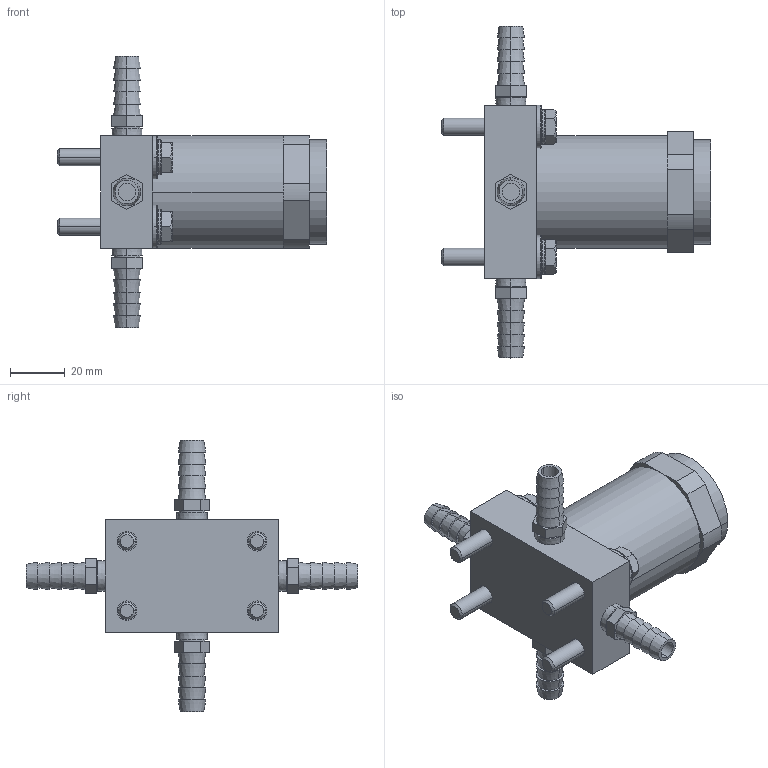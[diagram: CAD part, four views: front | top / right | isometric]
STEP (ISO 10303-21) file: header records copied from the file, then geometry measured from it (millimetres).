
FILE_DESCRIPTION((''),'2;1');
FILE_NAME('ULR4_ASM','2017-08-24T',('jennifer.elliott'),('CenterLine (Windsor) Ltd - Automation Components Division'),'PRO/ENGINEER BY PARAMETRIC TECHNOLOGY CORPORATION, 2015030','PRO/ENGINEER BY PARAMETRIC TECHNOLOGY CORPORATION, 2015030','');
FILE_SCHEMA(('AUTOMOTIVE_DESIGN { 1 0 10303 214 1 1 1 1 }'));
Length unit declared in the file: inch
Products named in the file (18): PRT0684; PRT0685; PRT0686; PRT0687; PRT0688; PRT0689; PRT0690; PRT0691; PRT0692; PRT0693; PRT0694; ASM0009_ASM; PRT0695; PRT0696; PRT0697; PRT0698; TMP_DWG-3DSOLID_94; ULR4_ASM
Assembly tree (17 placements, depth 3):
  ULR4_ASM
    PRT0684
    PRT0685
    PRT0686
    PRT0687
    PRT0688
    PRT0689
    PRT0690
    ASM0009_ASM
      PRT0691
      PRT0692
      PRT0693
      PRT0694
    PRT0695
    PRT0696
    PRT0697
    PRT0698
    TMP_DWG-3DSOLID_94
Bounding box: 98.42 x 121.41 x 99.19 mm (x, y, z)
Volume: 144853.1 mm3; surface area: 40342.7 mm2
Topology: 16 solids, 16 shells, 300 faces, 700 edges, 464 vertices
Faces by surface type: plane 134, cone 80, cylinder 62, torus 24
Entity records: 10164 total; most frequent: CARTESIAN_POINT 2004, DIRECTION 1622, ORIENTED_EDGE 1400, EDGE_CURVE 700, AXIS2_PLACEMENT_3D 671, VERTEX_POINT 464, EDGE_LOOP 356, CIRCLE 332
